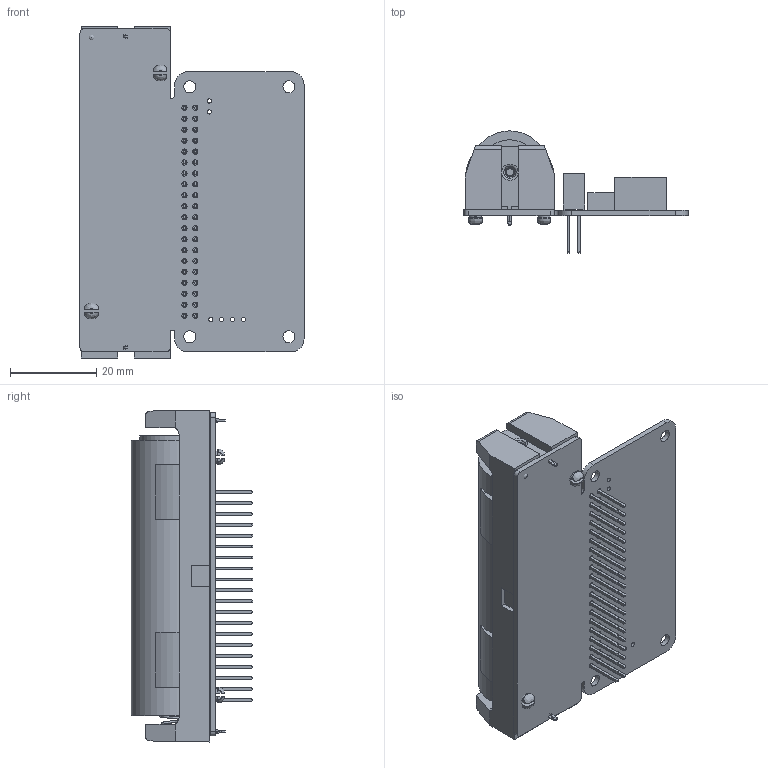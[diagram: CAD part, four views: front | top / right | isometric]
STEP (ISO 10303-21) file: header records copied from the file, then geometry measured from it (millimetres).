
FILE_DESCRIPTION(/* description */ (''),/* implementation_level */ '2;1');
FILE_NAME(/* name */ 'C:/Users/robcr/OneDrive - farmjenny.com/Documents - Farm Jenny Team/FJ Fileshare/Product Dev/SmartAss/UPS/Silicognition/LiFePO4wered-PiPlus18650-Unofficial v2.step',/* time_stamp */ '2021-08-16T14:10:53-04:00',/* author */ (''),/* organization */ (''),/* preprocessor_version */ 'ST-DEVELOPER v18.1',/* originating_system */ 'Autodesk Translation Framework v10.9.0.1377',/* authorisation */ '');
FILE_SCHEMA (('AUTOMOTIVE_DESIGN { 1 0 10303 214 3 1 1 }'));
Length unit declared in the file: millimetre
Products named in the file (9): LiFePO4wered-PiPlus18650-Unofficial; LiFePO4weredPiPlusPCB; ESQ-120-33-T-D; _ESQ-120-33-T-D_socket; _ESQ-120-33-T-D_pins; BigInductor; LittleInductor; keystone-PN1131; 18655 Battery Noleads
Assembly tree (8 placements, depth 3):
  LiFePO4wered-PiPlus18650-Unofficial
    LiFePO4weredPiPlusPCB
    ESQ-120-33-T-D
      _ESQ-120-33-T-D_socket
      _ESQ-120-33-T-D_pins
    BigInductor
    LittleInductor
    keystone-PN1131
    18655 Battery Noleads
Bounding box: 52 x 28.28 x 77.05 mm (x, y, z)
Volume: 30030.7 mm3; surface area: 22974.3 mm2
Topology: 9 solids, 9 shells, 1943 faces, 5065 edges, 3310 vertices
Faces by surface type: plane 1647, cylinder 140, bspline 136, torus 15, cone 4, sphere 1
Full cylindrical faces by diameter (mm): 0.899 x1, 1 x6, 1.016 x1, 1.2 x40, 1.27 x1, 1.575 x1, 2.54 x2, 2.8 x4, 2.921 x2, 14.109 x1, 18.25 x1
Entity records: 69404 total; most frequent: CARTESIAN_POINT 19975, ORIENTED_EDGE 10128, DIRECTION 8783, EDGE_CURVE 5064, LINE 4415, VECTOR 4415, VERTEX_POINT 3310, EDGE_LOOP 2226
